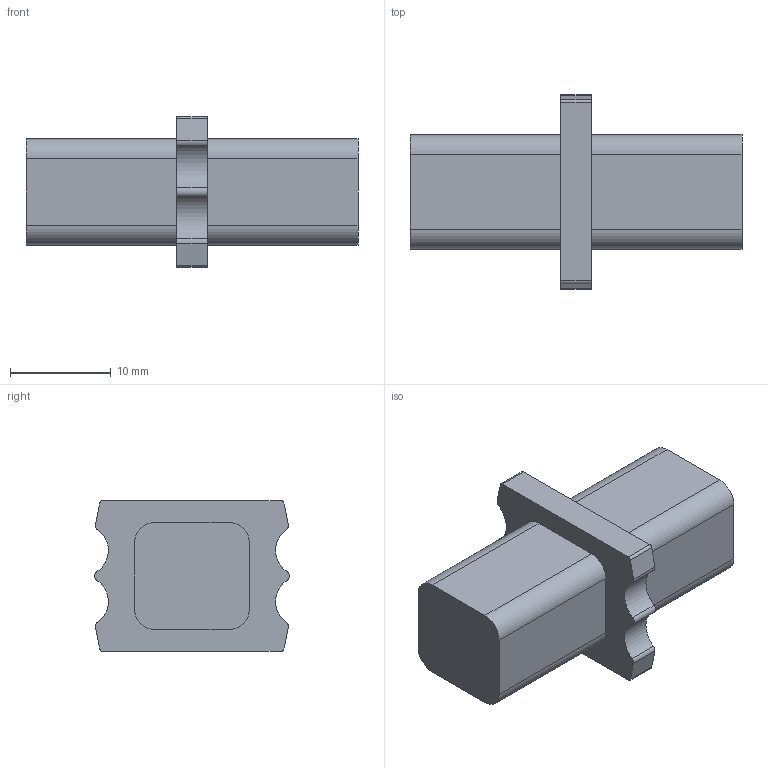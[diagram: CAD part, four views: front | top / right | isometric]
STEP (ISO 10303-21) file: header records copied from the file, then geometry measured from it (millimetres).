
FILE_DESCRIPTION (( 'STEP AP214' ), '1' );
FILE_NAME ('FGRJ-15X20.STEP', '2013-08-07T02:38:19', ( 'user' ), ( '' ), 'SwSTEP 2.0', 'SolidWorks 2009', '' );
FILE_SCHEMA (( 'AUTOMOTIVE_DESIGN' ));
Length unit declared in the file: millimetre
Products named in the file (1): FGRJ-15X20
Bounding box: 33 x 19.37 x 15 mm (x, y, z)
Surface area: 1965.3 mm2 (no closed solid volume)
Topology: 0 solids, 1 shells, 41 faces, 111 edges, 74 vertices
Faces by surface type: cylinder 23, plane 18
Entity records: 1785 total; most frequent: DIRECTION 241, CARTESIAN_POINT 227, ORIENTED_EDGE 222, EDGE_CURVE 111, AXIS2_PLACEMENT_3D 88, VERTEX_POINT 74, VECTOR 65, LINE 65
